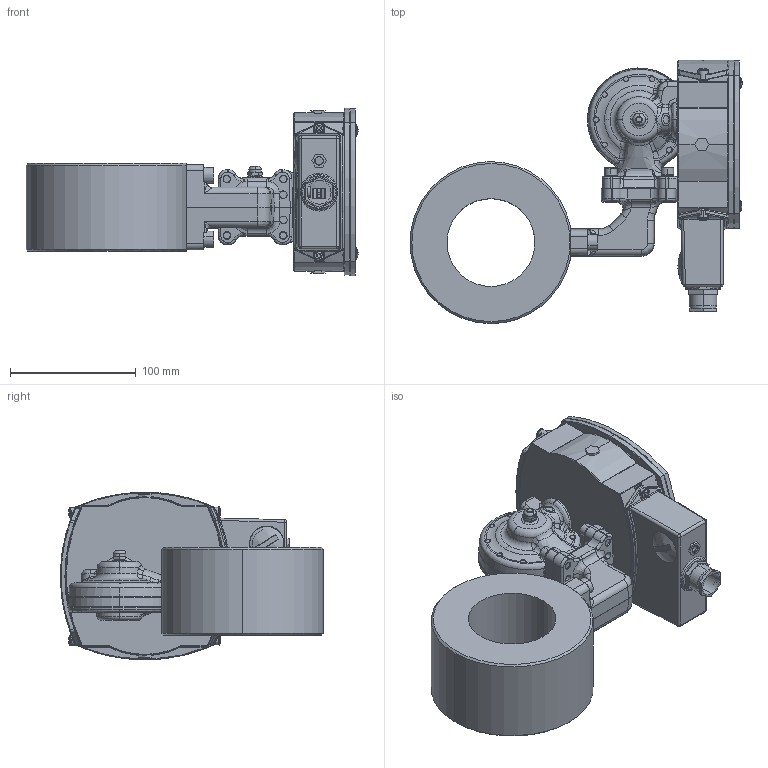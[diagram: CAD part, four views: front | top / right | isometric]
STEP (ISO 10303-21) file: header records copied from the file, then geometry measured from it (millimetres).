
FILE_DESCRIPTION (( 'STEP AP214' ), '1' );
FILE_NAME ('S FA65.STEP', '2016-09-21T07:11:46', ( 'User' ), ( 'HP' ), 'SwSTEP 2.0', 'SolidWorks 2016', '' );
FILE_SCHEMA (( 'AUTOMOTIVE_DESIGN' ));
Length unit declared in the file: millimetre
Products named in the file (35): ID_5_2; ID_4_3; S2_25_internal_2_1; ID_3_3; kupolmutter_1; ID_2_4; m_X_E4ssingsmembran_1; ID_1_4; S hus; ID_1_4_8; S FA65; ID_14; ID_13; FA65 anslutningsror; ID_12; fa hals; ID_1_1; ID_2_2; ID_1_4_5; ID_1_2; ID_10; membranhus br; ID_1_4_4; M5 membranskruvar_1; ID_1_4_3; skruv_membranhus_1; ID_1_1_2; fj_X_E4derbricka till membranhus BR_1; ID_9; MC6S M6x22_1; ID_1_4_2; Lock kontrollerad HMAB ELETTA 20160908_1; ID_7_2; ID_6_1; Membranhus kontrollerad HMAB ELETTA 20160908_1
Assembly tree (54 placements, depth 5):
  S FA65
    S hus
      ID_1_1
        ID_1_4
        ID_2_4
        ID_3_3
        ID_4_3
        ID_5_2
        ID_6_1  x4
        ID_7_2  x4
        ID_1_4_2
        ID_1_1_2
          ID_9  x2
        ID_1_4_3
        ID_1_4_4
        ID_10
        ID_1_4_5
      ID_12  x2
      ID_13
      ID_14
      ID_1_4_8
    membranhus br
      S2_25_internal_2_1
        m_X_E4ssingsmembran_1
        kupolmutter_1
      Membranhus kontrollerad HMAB ELETTA 20160908_1
      Lock kontrollerad HMAB ELETTA 20160908_1
      MC6S M6x22_1  x4
      M5 membranskruvar_1  x9
        fj_X_E4derbricka till membranhus BR_1
        skruv_membranhus_1
    fa hals
      ID_1_2
      ID_2_2  x2
    FA65 anslutningsror
Bounding box: 264.5 x 209.69 x 133.42 mm (x, y, z)
Volume: 1133450.6 mm3; surface area: 310630.9 mm2
Topology: 56 solids, 56 shells, 2415 faces, 5933 edges, 3680 vertices
Faces by surface type: plane 862, cylinder 687, bspline 585, cone 207, torus 67, sphere 7
Entity records: 101031 total; most frequent: CARTESIAN_POINT 58766, ORIENTED_EDGE 9332, DIRECTION 7182, EDGE_CURVE 4666, VERTEX_POINT 2913, AXIS2_PLACEMENT_3D 2679, EDGE_LOOP 2107, ADVANCED_FACE 1892
